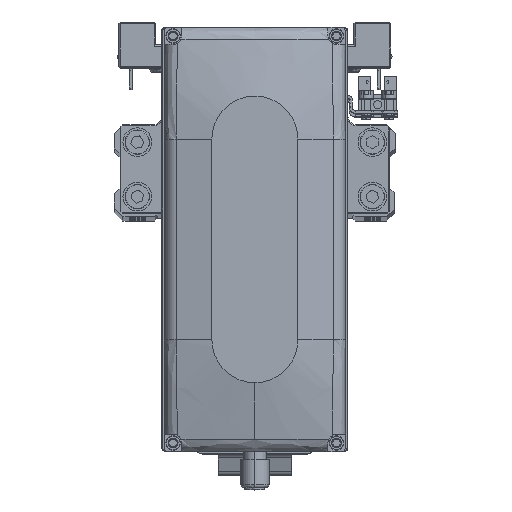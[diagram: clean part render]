
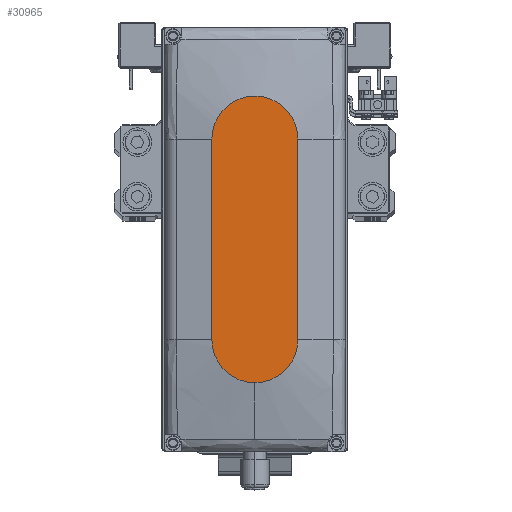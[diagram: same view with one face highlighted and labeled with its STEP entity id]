
A CAD part, top view. The second image highlights one B-rep face of the part: STEP entity #30965.
In plain terms, the highlighted planar face has unit normal (0, 0, 1).
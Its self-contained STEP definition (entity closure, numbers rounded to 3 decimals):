
#1363 = ORIENTED_EDGE ( 'NONE', *, *, #37849, .T. ) ;
#1974 = CARTESIAN_POINT ( 'NONE',  ( -35., 15., 35. ) ) ;
#2292 = EDGE_CURVE ( 'NONE', #26471, #18808, #28162, .T. ) ;
#3436 = VECTOR ( 'NONE', #15209, 1000. ) ;
#3826 = CARTESIAN_POINT ( 'NONE',  ( -35., 15., 35. ) ) ;
#4528 = ORIENTED_EDGE ( 'NONE', *, *, #2292, .T. ) ;
#6054 = DIRECTION ( 'NONE',  ( 1., 0., 0. ) ) ;
#6117 = DIRECTION ( 'NONE',  ( 1., 0., 0. ) ) ;
#7411 = DIRECTION ( 'NONE',  ( 1., 0., 0. ) ) ;
#9487 = AXIS2_PLACEMENT_3D ( 'NONE', #23888, #37046, #7411 ) ;
#9739 = CARTESIAN_POINT ( 'NONE',  ( 0., 0., 35. ) ) ;
#10449 = VERTEX_POINT ( 'NONE', #11666 ) ;
#11666 = CARTESIAN_POINT ( 'NONE',  ( 35., -15., 35. ) ) ;
#12485 = DIRECTION ( 'NONE',  ( 1., 0., 0. ) ) ;
#12601 = AXIS2_PLACEMENT_3D ( 'NONE', #22587, #35756, #6117 ) ;
#13845 = CARTESIAN_POINT ( 'NONE',  ( 50., 0., 35. ) ) ;
#13850 = EDGE_CURVE ( 'NONE', #22845, #41051, #15434, .T. ) ;
#15209 = DIRECTION ( 'NONE',  ( -1., 0., 0. ) ) ;
#15434 = CIRCLE ( 'NONE', #39586, 15. ) ;
#18746 = ORIENTED_EDGE ( 'NONE', *, *, #25972, .T. ) ;
#18808 = VERTEX_POINT ( 'NONE', #32591 ) ;
#21181 = ORIENTED_EDGE ( 'NONE', *, *, #36949, .T. ) ;
#22527 = CARTESIAN_POINT ( 'NONE',  ( 35., 0., 35. ) ) ;
#22587 = CARTESIAN_POINT ( 'NONE',  ( 35., 0., 35. ) ) ;
#22845 = VERTEX_POINT ( 'NONE', #13845 ) ;
#22972 = DIRECTION ( 'NONE',  ( 0., 0., 1. ) ) ;
#23888 = CARTESIAN_POINT ( 'NONE',  ( -35., 0., 35. ) ) ;
#25025 = AXIS2_PLACEMENT_3D ( 'NONE', #9739, #22972, #36145 ) ;
#25972 = EDGE_CURVE ( 'NONE', #10449, #22845, #31257, .T. ) ;
#26205 = FACE_OUTER_BOUND ( 'NONE', #39200, .T. ) ;
#26471 = VERTEX_POINT ( 'NONE', #3826 ) ;
#27215 = CARTESIAN_POINT ( 'NONE',  ( 35., 15., 35. ) ) ;
#27601 = VECTOR ( 'NONE', #12485, 1000. ) ;
#28162 = CIRCLE ( 'NONE', #9487, 15. ) ;
#28934 = LINE ( 'NONE', #42115, #27601 ) ;
#30965 = ADVANCED_FACE ( 'NONE', ( #26205 ), #39363, .T. ) ;
#31257 = CIRCLE ( 'NONE', #12601, 15. ) ;
#31641 = LINE ( 'NONE', #1974, #3436 ) ;
#32591 = CARTESIAN_POINT ( 'NONE',  ( -35., -15., 35. ) ) ;
#35699 = DIRECTION ( 'NONE',  ( 0., 0., 1. ) ) ;
#35756 = DIRECTION ( 'NONE',  ( 0., 0., 1. ) ) ;
#36145 = DIRECTION ( 'NONE',  ( 1., 0., 0. ) ) ;
#36949 = EDGE_CURVE ( 'NONE', #18808, #10449, #28934, .T. ) ;
#37046 = DIRECTION ( 'NONE',  ( 0., 0., 1. ) ) ;
#37849 = EDGE_CURVE ( 'NONE', #41051, #26471, #31641, .T. ) ;
#39200 = EDGE_LOOP ( 'NONE', ( #1363, #4528, #21181, #18746, #41211 ) ) ;
#39363 = PLANE ( 'NONE',  #25025 ) ;
#39586 = AXIS2_PLACEMENT_3D ( 'NONE', #22527, #35699, #6054 ) ;
#41051 = VERTEX_POINT ( 'NONE', #27215 ) ;
#41211 = ORIENTED_EDGE ( 'NONE', *, *, #13850, .T. ) ;
#42115 = CARTESIAN_POINT ( 'NONE',  ( -35., -15., 35. ) ) ;
